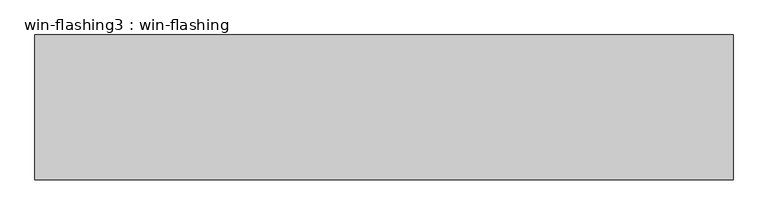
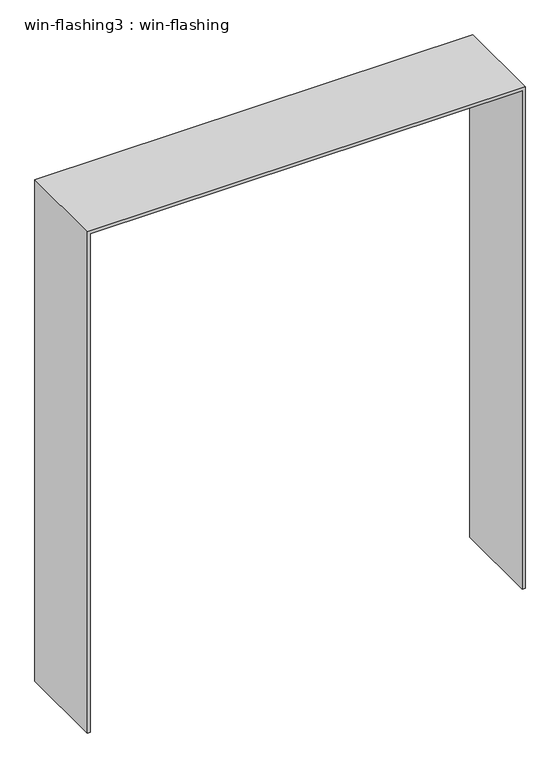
"""IFC4 building model written with IfcOpenShell, lengths in millimetres: beam geometry, win-flashing3 : win-flashing."""

import ifcopenshell
import ifcopenshell.guid

model = None  # the IFC model being written
_history = None  # IfcOwnerHistory: only IFC2X3 demands one
_inside = {}  # id of a spatial element -> (the spatial element, [elements in it])
_under = {}  # id of a project, library or spatial element -> (it, [spatial elements below it])
_declared = {}  # id of a project -> (the project, [libraries it declares])
_typed = {}  # id of a type object -> (the type object, [elements of that type])
_made_of = {}  # id of a material, layer set ... -> (it, [elements and type objects made of it])


def new_model(schema):
    """Start an empty IFC model of exactly this schema.

    Asked for "IFC4X3", IfcOpenShell would pick the latest addendum, in which some entities
    have other attributes; the version numbers below select the first issue.
    IFC2X3 requires an IfcOwnerHistory on every rooted entity: one is made here for all.
    """
    global model, _history
    if schema == "IFC4X3":
        model = ifcopenshell.file(schema_version=(4, 3, 0, 0))
    else:
        model = ifcopenshell.file(schema=schema)
    _inside.clear()
    _under.clear()
    _declared.clear()
    _typed.clear()
    _made_of.clear()
    _history = None
    if model.schema == "IFC2X3":
        org = make("IfcOrganization", Name="unknown")
        user = make(
            "IfcPersonAndOrganization",
            ThePerson=make("IfcPerson", FamilyName="unknown"),
            TheOrganization=org,
        )
        app = make(
            "IfcApplication",
            ApplicationDeveloper=org,
            Version="unknown",
            ApplicationFullName="unknown",
            ApplicationIdentifier="unknown",
        )
        _history = make(
            "IfcOwnerHistory",
            OwningUser=user,
            OwningApplication=app,
            ChangeAction="ADDED",
            CreationDate=0,
        )
    return model


def make(cls, **values):
    """One entity of the class cls with the attributes given. An attribute that is None is left unset."""
    return model.create_entity(
        cls, **{name: value for name, value in values.items() if value is not None}
    )


def rooted(cls, **values):
    """An entity with a GlobalId (a new one), such as an element, a storey or a relation."""
    return make(cls, GlobalId=ifcopenshell.guid.new(), OwnerHistory=_history, **values)


def si_unit(unit_type, name, prefix=None):
    """IfcSIUnit, for example si_unit("LENGTHUNIT", "METRE", prefix="MILLI")."""
    return make("IfcSIUnit", UnitType=unit_type, Prefix=prefix, Name=name)


def assignment(units):
    """IfcUnitAssignment: the units of a project."""
    return None if units is None else make("IfcUnitAssignment", Units=units)


def point(xyz):
    """IfcCartesianPoint."""
    return None if xyz is None else make("IfcCartesianPoint", Coordinates=xyz)


def direction(xyz):
    """IfcDirection."""
    return None if xyz is None else make("IfcDirection", DirectionRatios=xyz)


def frame(location, z_axis=None, x_axis=None):
    """IfcAxis2Placement3D, a coordinate frame: its origin and axes. An axis left out is left unset."""
    return make(
        "IfcAxis2Placement3D",
        Location=point(location),
        Axis=direction(z_axis),
        RefDirection=direction(x_axis),
    )


def origin():
    """The frame at (0, 0, 0) with its axes left unset."""
    return frame((0.0, 0.0, 0.0))


def place(relative_to, where):
    """IfcLocalPlacement: puts the frame where relative to a parent placement (None: the world)."""
    return make(
        "IfcLocalPlacement", PlacementRelTo=relative_to, RelativePlacement=where
    )


def context(
    kind, dimensions, precision=None, world=None, true_north=None, identifier=None
):
    """IfcGeometricRepresentationContext, for example the 3D "Model" context."""
    return make(
        "IfcGeometricRepresentationContext",
        ContextIdentifier=identifier,
        ContextType=kind,
        CoordinateSpaceDimension=dimensions,
        Precision=precision,
        WorldCoordinateSystem=world,
        TrueNorth=true_north,
    )


def project(units=None, contexts=None):
    """IfcProject with its units and contexts."""
    return rooted(
        "IfcProject",
        Name="project",
        RepresentationContexts=contexts,
        UnitsInContext=assignment(units),
    )


def spatial(cls, under=None, at=None, **own):
    """A site, building, storey or space (cls), placed at a placement, below another one or the project."""
    s = rooted(cls, ObjectPlacement=at, **own)
    if under is not None:
        _under.setdefault(under.id(), (under, []))[1].append(s)
    return s


def polyline(points):
    """IfcPolyline through the points."""
    return make("IfcPolyline", Points=[point(p) for p in points])


def outline(outer, holes=None, kind="AREA"):
    """IfcArbitraryClosedProfileDef: a profile drawn as a closed curve; with holes, ...WithVoids."""
    if holes is None:
        return make("IfcArbitraryClosedProfileDef", ProfileType=kind, OuterCurve=outer)
    return make(
        "IfcArbitraryProfileDefWithVoids",
        ProfileType=kind,
        OuterCurve=outer,
        InnerCurves=holes,
    )


def extrude(swept, where, along, depth):
    """IfcExtrudedAreaSolid: the profile swept, set in the frame where, extruded along a direction by depth."""
    return make(
        "IfcExtrudedAreaSolid",
        SweptArea=swept,
        Position=where,
        ExtrudedDirection=direction(along),
        Depth=depth,
    )


def shape(context_of_items, identifier, shape_type, items):
    """IfcShapeRepresentation: the items that make up one representation, for example the "Body"."""
    return make(
        "IfcShapeRepresentation",
        ContextOfItems=context_of_items,
        RepresentationIdentifier=identifier,
        RepresentationType=shape_type,
        Items=items,
    )


def source(mapping_origin, context_of_items, identifier, shape_type, items):
    """IfcRepresentationMap: a shape defined once, which mapped items show again and again."""
    return make(
        "IfcRepresentationMap",
        MappingOrigin=mapping_origin,
        MappedRepresentation=shape(context_of_items, identifier, shape_type, items),
    )


def transform(
    local_origin,
    x_axis=None,
    y_axis=None,
    z_axis=None,
    scale=None,
    scale2=None,
    scale3=None,
    uniform=True,
):
    """IfcCartesianTransformationOperator3D, or its non-uniform kind. x_axis, y_axis, z_axis: its Axis1, 2, 3."""
    if uniform:
        return make(
            "IfcCartesianTransformationOperator3D",
            Axis1=direction(x_axis),
            Axis2=direction(y_axis),
            LocalOrigin=point(local_origin),
            Scale=scale,
            Axis3=direction(z_axis),
        )
    return make(
        "IfcCartesianTransformationOperator3DnonUniform",
        Axis1=direction(x_axis),
        Axis2=direction(y_axis),
        LocalOrigin=point(local_origin),
        Scale=scale,
        Axis3=direction(z_axis),
        Scale2=scale2,
        Scale3=scale3,
    )


def mapped(mapping_source, mapping_target):
    """IfcMappedItem: shows the shape of a source again, moved by a transform."""
    return make(
        "IfcMappedItem", MappingSource=mapping_source, MappingTarget=mapping_target
    )


def made_of(thing, what):
    """Note that an element or type object is made of a material, layer set ...; save() writes the relation."""
    if what is not None:
        _made_of.setdefault(what.id(), (what, []))[1].append(thing)
    return thing


def element(
    cls,
    number,
    at=None,
    inside=None,
    cuts=None,
    type_object=None,
    material=None,
    context=None,
    identifier="Body",
    shape_type=None,
    held_by="IfcProductDefinitionShape",
    body=None,
    shapes=None,
    **own,
):
    """One element of the class cls, such as IfcWall. Its Tag is "e" and its number.

    at: its placement. inside: the storey or other place that contains it. cuts: it is an
    opening in that element (IfcRelVoidsElement). A single representation is given by context,
    identifier, shape_type and body (its items); several are given by shapes. held_by: the class
    of the entity that holds the representations. save() writes the other relations.
    """
    e = rooted(cls, Tag="e%d" % number, ObjectPlacement=at, **own)
    if body is not None:
        shapes = [shape(context, identifier, shape_type, body)]
    if shapes is not None:
        e.Representation = make(held_by, Representations=shapes)
    if inside is not None:
        _inside.setdefault(inside.id(), (inside, []))[1].append(e)
    if cuts is not None:
        rooted(
            "IfcRelVoidsElement", RelatingBuildingElement=cuts, RelatedOpeningElement=e
        )
    if type_object is not None:
        _typed.setdefault(type_object.id(), (type_object, []))[1].append(e)
    return made_of(e, material)


def aggregate(whole, parts):
    """IfcRelAggregates: a whole, such as a stair, and the parts it consists of."""
    return rooted("IfcRelAggregates", RelatingObject=whole, RelatedObjects=parts)


def save(model, path):
    """Write the relations noted so far, then the file.

    IfcRelAggregates (storeys below a building ...), IfcRelContainedInSpatialStructure (elements
    in a storey), IfcRelDefinesByType, IfcRelAssociatesMaterial and IfcRelDeclares: one each for
    every whole, place, type object, material and project.
    """
    for whole, parts in _under.values():
        aggregate(whole, parts)
    for where, things in _inside.values():
        rooted(
            "IfcRelContainedInSpatialStructure",
            RelatedElements=things,
            RelatingStructure=where,
        )
    for kind, things in _typed.values():
        rooted("IfcRelDefinesByType", RelatedObjects=things, RelatingType=kind)
    for what, things in _made_of.values():
        rooted("IfcRelAssociatesMaterial", RelatedObjects=things, RelatingMaterial=what)
    for by, libraries in _declared.values():
        rooted("IfcRelDeclares", RelatingContext=by, RelatedDefinitions=libraries)
    model.write(path)


def win_flashing3_win_flashing_c8dd44ad(model_context):
    return source(origin(), model_context, "Body", "SweptSolid", [
        extrude(outline(polyline([(16965.0, -1790.5666589), (16965.0, -1780.5666589), (18805.0, -1780.5666589), (18805.0, -3300.5666589), (16965.0, -3300.5666589), (16965.0, -3290.5666589), (18795.0, -3290.5666589), (18795.0, -1790.5666589), (16965.0, -1790.5666589)])), frame((0.0, -5904.4647185, 0.0), z_axis=(0.0, 1.0, 0.0), x_axis=(0.0, 0.0, 1.0)), (0.0, 0.0, 1.0), 315.0),
    ])


if __name__ == "__main__":
    model = new_model("IFC4")
    model_context = context("Model", 3, world=origin())
    ifc_project = project(units=[si_unit("LENGTHUNIT", "METRE", prefix="MILLI")], contexts=[model_context])
    site = spatial("IfcSite", under=ifc_project)
    building = spatial("IfcBuilding", under=site)
    placement = place(None, origin())
    win_flashing3_win_flashing_shape = win_flashing3_win_flashing_c8dd44ad(model_context)
    element("IfcBeam", 1, ObjectType="win-flashing3 : win-flashing", at=placement, inside=building, context=model_context, shape_type="MappedRepresentation", body=[
        mapped(win_flashing3_win_flashing_shape, transform((0.0, 0.0, 0.0), x_axis=(1.0, 0.0, 0.0), y_axis=(0.0, 1.0, 0.0), z_axis=(0.0, 0.0, 1.0))),
    ])
    save(model, "model.ifc")
